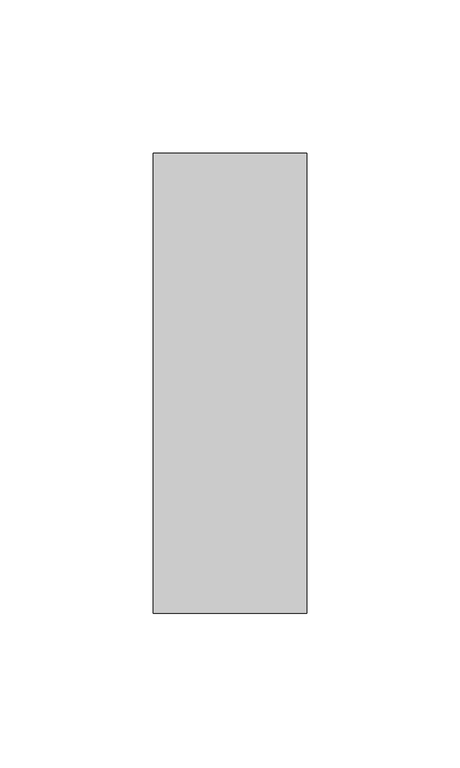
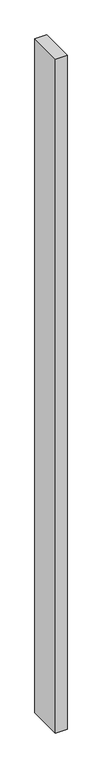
"""IFC4 building model written with IfcOpenShell, lengths in millimetres: member geometry, Прямоугольный импост : 50 мм x 150 мм."""

from ifc_helpers import new_model, si_unit, frame, origin, place, context, project, spatial, polyline, outline, extrude, source, transform, mapped, element, save


def member_1fe37e93(model_context):
    return source(origin(), model_context, "Body", "SweptSolid", [
        extrude(outline(polyline([(0.0, 75.0), (0.0, -75.0), (-50.0, -75.0), (-50.0, 75.0), (0.0, 75.0)])), frame((0.0, 0.0, -3025.0), z_axis=(0.0, 0.0, 1.0), x_axis=(1.0, 0.0, 0.0)), (0.0, 0.0, 1.0), 3025.0),
    ])


if __name__ == "__main__":
    model = new_model("IFC4")
    model_context = context("Model", 3, world=origin())
    ifc_project = project(units=[si_unit("LENGTHUNIT", "METRE", prefix="MILLI")], contexts=[model_context])
    site = spatial("IfcSite", under=ifc_project)
    building = spatial("IfcBuilding", under=site)
    placement = place(None, origin())
    member_shape = member_1fe37e93(model_context)
    element("IfcMember", 1, ObjectType="Прямоугольный импост : 50 мм x 150 мм", at=placement, inside=building, context=model_context, shape_type="MappedRepresentation", body=[
        mapped(member_shape, transform((0.0, 0.0, 0.0), x_axis=(1.0, 0.0, 0.0), y_axis=(0.0, 1.0, 0.0), z_axis=(0.0, 0.0, 1.0))),
    ])
    save(model, "model.ifc")
